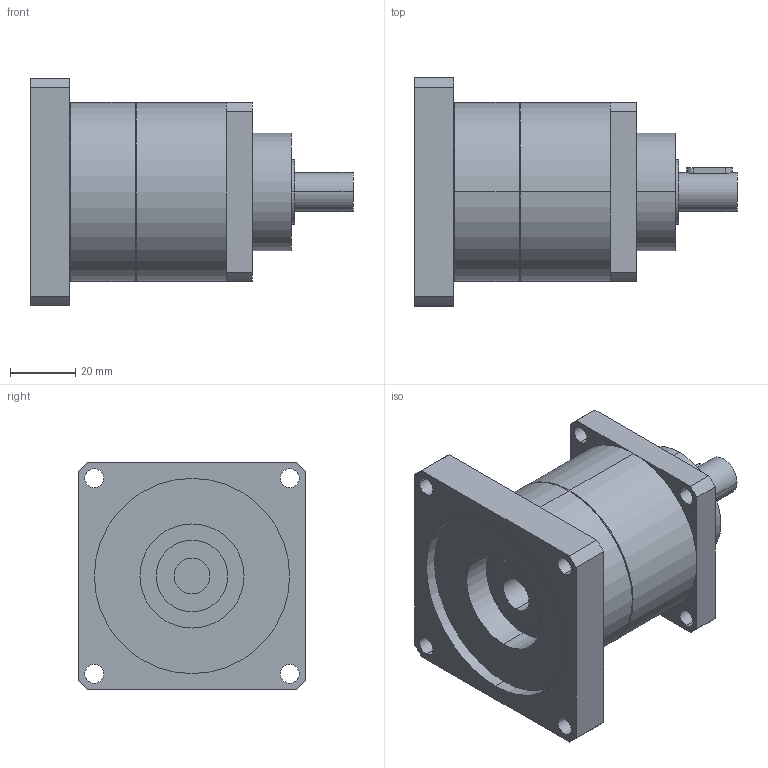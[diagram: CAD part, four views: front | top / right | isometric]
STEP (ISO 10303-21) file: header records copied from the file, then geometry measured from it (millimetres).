
FILE_DESCRIPTION(('CoCreate Modeling STEP Export'),'2;1');
FILE_NAME('GPT55_ig-3-4-5-7-10_12_B5A_11_P30.stp','2014-08-25T14:31:40',(''),(''),'CoCreate Modeling STEP processor for AP214 (Solid Model)','CoCreate Modeling 16.00C 25-Feb-2009 (C) Parametric Technology GmbH','');
FILE_SCHEMA(('AUTOMOTIVE_DESIGN { 1 0 10303 214 1 1 1 1 }'));
Length unit declared in the file: millimetre
Products named in the file (2): GPT55_ig-3-4-5-7-10_12_B5A_11_P30
Assembly tree (1 placements, depth 2):
  GPT55_ig-3-4-5-7-10_12_B5A_11_P30
    GPT55_ig-3-4-5-7-10_12_B5A_11_P30
Bounding box: 99 x 70 x 70 mm (x, y, z)
Volume: 191430.8 mm3; surface area: 30287 mm2
Topology: 1 solids, 1 shells, 77 faces, 204 edges, 139 vertices
Faces by surface type: cylinder 46, plane 27, cone 4
Entity records: 2515 total; most frequent: CARTESIAN_POINT 710, ORIENTED_EDGE 408, DIRECTION 318, EDGE_CURVE 204, VERTEX_POINT 139, AXIS2_PLACEMENT_3D 117, EDGE_LOOP 103, VECTOR 84
